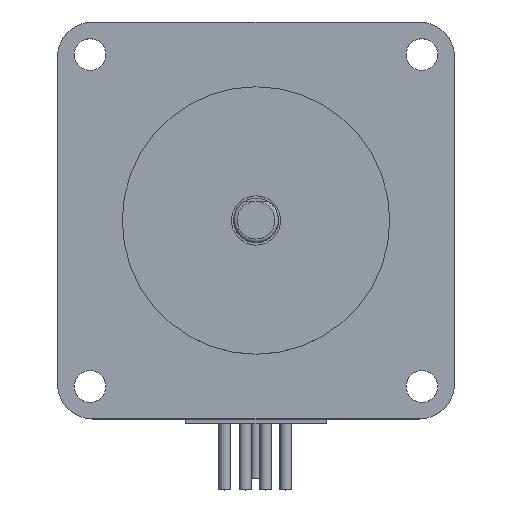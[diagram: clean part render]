
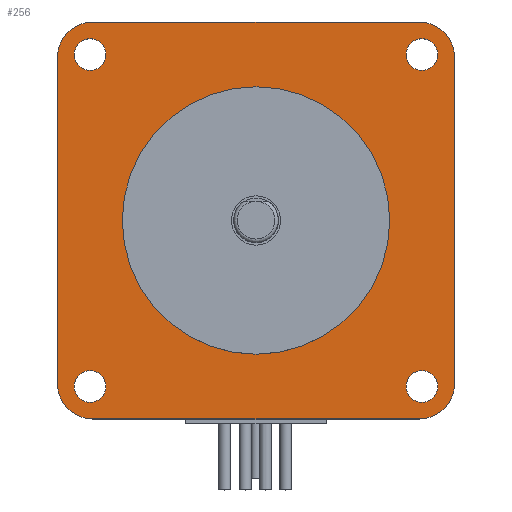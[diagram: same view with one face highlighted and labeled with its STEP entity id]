
A CAD part, top view. The second image highlights one B-rep face of the part: STEP entity #256.
In plain terms, the highlighted planar face has unit normal (0, 0, 1).
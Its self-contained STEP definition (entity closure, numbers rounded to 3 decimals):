
#256=ADVANCED_FACE('',(#722,#723,#724,#725,#726,#727),#371,.F.);
#371=PLANE('',#2084);
#432=LINE('',#2985,#577);
#433=LINE('',#2990,#578);
#434=LINE('',#2994,#579);
#435=LINE('',#2998,#580);
#577=VECTOR('',#2363,1.);
#578=VECTOR('',#2366,1.);
#579=VECTOR('',#2369,1.);
#580=VECTOR('',#2372,1.);
#722=FACE_BOUND('',#791,.T.);
#723=FACE_BOUND('',#792,.T.);
#724=FACE_BOUND('',#793,.T.);
#725=FACE_BOUND('',#794,.T.);
#726=FACE_BOUND('',#795,.T.);
#727=FACE_BOUND('',#796,.T.);
#791=EDGE_LOOP('',(#969));
#792=EDGE_LOOP('',(#970));
#793=EDGE_LOOP('',(#971));
#794=EDGE_LOOP('',(#972));
#795=EDGE_LOOP('',(#973));
#796=EDGE_LOOP('',(#974,#975,#976,#977,#978,#979,#980,#981));
#969=ORIENTED_EDGE('',*,*,#1691,.F.);
#970=ORIENTED_EDGE('',*,*,#1692,.F.);
#971=ORIENTED_EDGE('',*,*,#1693,.F.);
#972=ORIENTED_EDGE('',*,*,#1694,.F.);
#973=ORIENTED_EDGE('',*,*,#1695,.T.);
#974=ORIENTED_EDGE('',*,*,#1696,.F.);
#975=ORIENTED_EDGE('',*,*,#1697,.T.);
#976=ORIENTED_EDGE('',*,*,#1698,.F.);
#977=ORIENTED_EDGE('',*,*,#1699,.T.);
#978=ORIENTED_EDGE('',*,*,#1700,.F.);
#979=ORIENTED_EDGE('',*,*,#1701,.T.);
#980=ORIENTED_EDGE('',*,*,#1702,.F.);
#981=ORIENTED_EDGE('',*,*,#1703,.T.);
#1503=VERTEX_POINT('',#2976);
#1504=VERTEX_POINT('',#2978);
#1505=VERTEX_POINT('',#2980);
#1506=VERTEX_POINT('',#2982);
#1507=VERTEX_POINT('',#2984);
#1508=VERTEX_POINT('',#2986);
#1509=VERTEX_POINT('',#2987);
#1510=VERTEX_POINT('',#2989);
#1511=VERTEX_POINT('',#2991);
#1512=VERTEX_POINT('',#2993);
#1513=VERTEX_POINT('',#2995);
#1514=VERTEX_POINT('',#2997);
#1515=VERTEX_POINT('',#2999);
#1691=EDGE_CURVE('',#1503,#1503,#1948,.T.);
#1692=EDGE_CURVE('',#1504,#1504,#1949,.T.);
#1693=EDGE_CURVE('',#1505,#1505,#1950,.T.);
#1694=EDGE_CURVE('',#1506,#1506,#1951,.T.);
#1695=EDGE_CURVE('',#1507,#1507,#1952,.T.);
#1696=EDGE_CURVE('',#1508,#1509,#432,.T.);
#1697=EDGE_CURVE('',#1508,#1510,#1953,.T.);
#1698=EDGE_CURVE('',#1511,#1510,#433,.T.);
#1699=EDGE_CURVE('',#1511,#1512,#1954,.T.);
#1700=EDGE_CURVE('',#1513,#1512,#434,.T.);
#1701=EDGE_CURVE('',#1513,#1514,#1955,.T.);
#1702=EDGE_CURVE('',#1515,#1514,#435,.T.);
#1703=EDGE_CURVE('',#1515,#1509,#1956,.T.);
#1948=CIRCLE('',#2075,2.25);
#1949=CIRCLE('',#2076,2.25);
#1950=CIRCLE('',#2077,2.25);
#1951=CIRCLE('',#2078,2.25);
#1952=CIRCLE('',#2079,19.);
#1953=CIRCLE('',#2080,5.);
#1954=CIRCLE('',#2081,5.);
#1955=CIRCLE('',#2082,5.);
#1956=CIRCLE('',#2083,5.);
#2075=AXIS2_PLACEMENT_3D('',#2975,#2353,#2354);
#2076=AXIS2_PLACEMENT_3D('',#2977,#2355,#2356);
#2077=AXIS2_PLACEMENT_3D('',#2979,#2357,#2358);
#2078=AXIS2_PLACEMENT_3D('',#2981,#2359,#2360);
#2079=AXIS2_PLACEMENT_3D('',#2983,#2361,#2362);
#2080=AXIS2_PLACEMENT_3D('',#2988,#2364,#2365);
#2081=AXIS2_PLACEMENT_3D('',#2992,#2367,#2368);
#2082=AXIS2_PLACEMENT_3D('',#2996,#2370,#2371);
#2083=AXIS2_PLACEMENT_3D('',#3000,#2373,#2374);
#2084=AXIS2_PLACEMENT_3D('',#3001,#2375,#2376);
#2353=DIRECTION('',(0.,0.,1.));
#2354=DIRECTION('',(1.,0.,0.));
#2355=DIRECTION('',(0.,0.,1.));
#2356=DIRECTION('',(1.,0.,0.));
#2357=DIRECTION('',(0.,0.,1.));
#2358=DIRECTION('',(1.,0.,0.));
#2359=DIRECTION('',(0.,0.,1.));
#2360=DIRECTION('',(1.,0.,0.));
#2361=DIRECTION('',(0.,0.,-1.));
#2362=DIRECTION('',(1.,0.,0.));
#2363=DIRECTION('',(-1.,0.,0.));
#2364=DIRECTION('',(0.,0.,1.));
#2365=DIRECTION('',(-1.,0.,0.));
#2366=DIRECTION('',(0.,-1.,0.));
#2367=DIRECTION('',(0.,0.,1.));
#2368=DIRECTION('',(-1.,0.,0.));
#2369=DIRECTION('',(1.,0.,0.));
#2370=DIRECTION('',(0.,0.,1.));
#2371=DIRECTION('',(-1.,0.,0.));
#2372=DIRECTION('',(0.,1.,0.));
#2373=DIRECTION('',(0.,0.,1.));
#2374=DIRECTION('',(-1.,0.,0.));
#2375=DIRECTION('',(0.,0.,-1.));
#2376=DIRECTION('',(-1.,0.,0.));
#2975=CARTESIAN_POINT('',(-23.57,-23.57,0.));
#2976=CARTESIAN_POINT('',(-21.32,-23.57,0.));
#2977=CARTESIAN_POINT('',(-23.57,23.57,0.));
#2978=CARTESIAN_POINT('',(-21.32,23.57,0.));
#2979=CARTESIAN_POINT('',(23.57,23.57,0.));
#2980=CARTESIAN_POINT('',(25.82,23.57,0.));
#2981=CARTESIAN_POINT('',(23.57,-23.57,0.));
#2982=CARTESIAN_POINT('',(25.82,-23.57,0.));
#2983=CARTESIAN_POINT('',(0.,0.,0.));
#2984=CARTESIAN_POINT('',(19.,0.,0.));
#2985=CARTESIAN_POINT('',(28.2,-28.2,0.));
#2986=CARTESIAN_POINT('',(23.2,-28.2,0.));
#2987=CARTESIAN_POINT('',(-23.2,-28.2,0.));
#2988=CARTESIAN_POINT('',(23.2,-23.2,0.));
#2989=CARTESIAN_POINT('',(28.2,-23.2,0.));
#2990=CARTESIAN_POINT('',(28.2,28.2,0.));
#2991=CARTESIAN_POINT('',(28.2,23.2,0.));
#2992=CARTESIAN_POINT('',(23.2,23.2,0.));
#2993=CARTESIAN_POINT('',(23.2,28.2,0.));
#2994=CARTESIAN_POINT('',(-28.2,28.2,0.));
#2995=CARTESIAN_POINT('',(-23.2,28.2,0.));
#2996=CARTESIAN_POINT('',(-23.2,23.2,0.));
#2997=CARTESIAN_POINT('',(-28.2,23.2,0.));
#2998=CARTESIAN_POINT('',(-28.2,-28.2,0.));
#2999=CARTESIAN_POINT('',(-28.2,-23.2,0.));
#3000=CARTESIAN_POINT('',(-23.2,-23.2,0.));
#3001=CARTESIAN_POINT('',(-28.2,-28.2,0.));
